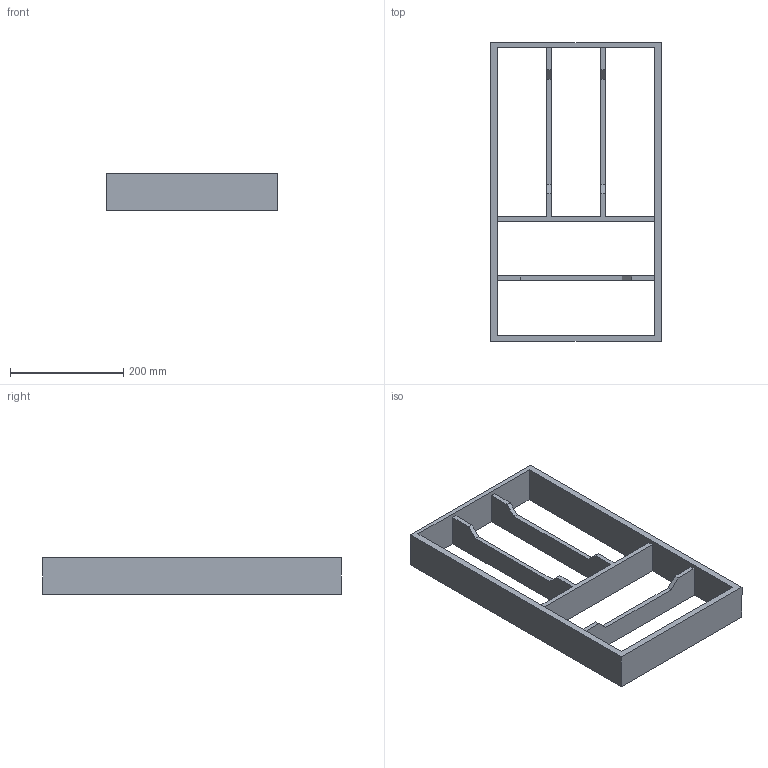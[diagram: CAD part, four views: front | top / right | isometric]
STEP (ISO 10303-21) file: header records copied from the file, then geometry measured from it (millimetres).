
FILE_DESCRIPTION (( 'STEP AP214' ), '1' );
FILE_NAME ('Vario Besteck fix NL550_B400_19mm_Buche.step', '2010-11-08T07:33:20', ( 'grass' ), ( '' ), 'SwSTEP 2.0', 'SolidWorks 2010', '' );
FILE_SCHEMA (( 'AUTOMOTIVE_DESIGN' ));
Length unit declared in the file: millimetre
Products named in the file (1): Vario Besteck fix NL550_B400_19mm_Buche
Bounding box: 302 x 529 x 65 mm (x, y, z)
Volume: 1615874 mm3; surface area: 373438 mm2
Topology: 1 solids, 1 shells, 34 faces, 108 edges, 72 vertices
Faces by surface type: plane 34
Entity records: 1226 total; most frequent: ORIENTED_EDGE 216, CARTESIAN_POINT 215, DIRECTION 178, VECTOR 108, LINE 108, EDGE_CURVE 108, VERTEX_POINT 72, EDGE_LOOP 40
